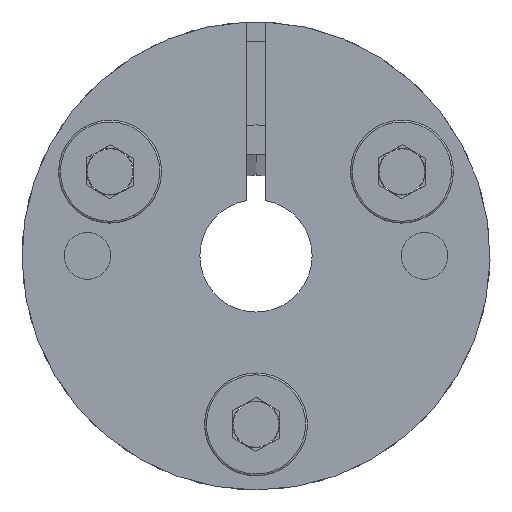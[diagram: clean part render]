
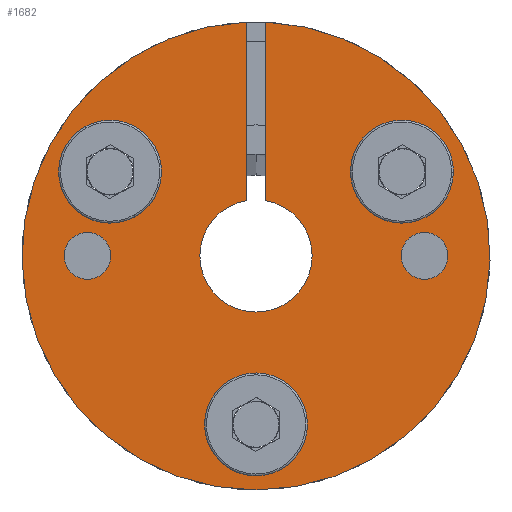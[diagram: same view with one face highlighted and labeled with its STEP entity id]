
A CAD part, left-side view. The second image highlights one B-rep face of the part: STEP entity #1682.
In plain terms, the highlighted planar face has unit normal (-1, 0, 0).
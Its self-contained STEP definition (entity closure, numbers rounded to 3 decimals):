
#3 = EDGE_CURVE ( 'NONE', #1760, #1853, #1706, .T. ) ;
#46 = DIRECTION ( 'NONE',  ( 0., 1., 0. ) ) ;
#99 = DIRECTION ( 'NONE',  ( -1., 0., 0. ) ) ;
#114 = EDGE_CURVE ( 'NONE', #3046, #1008, #115, .T. ) ;
#115 = CIRCLE ( 'NONE', #574, 1.25 ) ;
#117 = VERTEX_POINT ( 'NONE', #2579 ) ;
#186 = VERTEX_POINT ( 'NONE', #227 ) ;
#195 = CIRCLE ( 'NONE', #343, 1.7 ) ;
#205 = ORIENTED_EDGE ( 'NONE', *, *, #2664, .F. ) ;
#227 = CARTESIAN_POINT ( 'NONE',  ( -10.443, 0.5, 12.49 ) ) ;
#255 = DIRECTION ( 'NONE',  ( 1., 0., 0. ) ) ;
#276 = CARTESIAN_POINT ( 'NONE',  ( -10.443, 9., 0. ) ) ;
#299 = FACE_OUTER_BOUND ( 'NONE', #1858, .T. ) ;
#343 = AXIS2_PLACEMENT_3D ( 'NONE', #948, #2934, #1416 ) ;
#346 = CIRCLE ( 'NONE', #2862, 1.25 ) ;
#378 = EDGE_CURVE ( 'NONE', #2801, #1730, #1419, .T. ) ;
#395 = AXIS2_PLACEMENT_3D ( 'NONE', #635, #3221, #2730 ) ;
#434 = AXIS2_PLACEMENT_3D ( 'NONE', #1623, #2622, #2400 ) ;
#437 = EDGE_CURVE ( 'NONE', #3216, #186, #722, .T. ) ;
#481 = CARTESIAN_POINT ( 'NONE',  ( -10.443, 0., -9. ) ) ;
#496 = CARTESIAN_POINT ( 'NONE',  ( -10.443, -7.794, 4.5 ) ) ;
#512 = DIRECTION ( 'NONE',  ( -1., 0., 0. ) ) ;
#574 = AXIS2_PLACEMENT_3D ( 'NONE', #276, #576, #46 ) ;
#576 = DIRECTION ( 'NONE',  ( -1., 0., 0. ) ) ;
#577 = VECTOR ( 'NONE', #1804, 1000. ) ;
#605 = CARTESIAN_POINT ( 'NONE',  ( -10.443, -9., 0. ) ) ;
#635 = CARTESIAN_POINT ( 'NONE',  ( -10.443, 0., 0. ) ) ;
#641 = DIRECTION ( 'NONE',  ( 0., 1., 0. ) ) ;
#642 = DIRECTION ( 'NONE',  ( -1., 0., 0. ) ) ;
#669 = EDGE_CURVE ( 'NONE', #968, #117, #1353, .T. ) ;
#671 = VERTEX_POINT ( 'NONE', #1866 ) ;
#690 = ORIENTED_EDGE ( 'NONE', *, *, #2396, .F. ) ;
#722 = LINE ( 'NONE', #2865, #577 ) ;
#801 = CIRCLE ( 'NONE', #395, 3. ) ;
#864 = CIRCLE ( 'NONE', #2531, 1.7 ) ;
#869 = ORIENTED_EDGE ( 'NONE', *, *, #114, .F. ) ;
#913 = EDGE_LOOP ( 'NONE', ( #924, #205 ) ) ;
#924 = ORIENTED_EDGE ( 'NONE', *, *, #2727, .F. ) ;
#948 = CARTESIAN_POINT ( 'NONE',  ( -10.443, 7.794, 4.5 ) ) ;
#954 = FACE_BOUND ( 'NONE', #2875, .T. ) ;
#968 = VERTEX_POINT ( 'NONE', #2671 ) ;
#976 = DIRECTION ( 'NONE',  ( -1., 0., 0. ) ) ;
#1008 = VERTEX_POINT ( 'NONE', #2492 ) ;
#1060 = CARTESIAN_POINT ( 'NONE',  ( -10.443, -1.7, -9. ) ) ;
#1086 = DIRECTION ( 'NONE',  ( -1., 0., 0. ) ) ;
#1102 = AXIS2_PLACEMENT_3D ( 'NONE', #496, #976, #2126 ) ;
#1135 = FACE_BOUND ( 'NONE', #2833, .T. ) ;
#1164 = CIRCLE ( 'NONE', #1785, 1.25 ) ;
#1173 = CARTESIAN_POINT ( 'NONE',  ( -10.443, 7.794, 4.5 ) ) ;
#1181 = ORIENTED_EDGE ( 'NONE', *, *, #1246, .F. ) ;
#1182 = CARTESIAN_POINT ( 'NONE',  ( -10.443, 9., 0. ) ) ;
#1195 = AXIS2_PLACEMENT_3D ( 'NONE', #2919, #255, #1279 ) ;
#1199 = AXIS2_PLACEMENT_3D ( 'NONE', #3225, #1086, #3047 ) ;
#1205 = CARTESIAN_POINT ( 'NONE',  ( -10.443, 6.094, 4.5 ) ) ;
#1246 = EDGE_CURVE ( 'NONE', #3216, #1708, #801, .T. ) ;
#1253 = DIRECTION ( 'NONE',  ( 0., 1., 0. ) ) ;
#1279 = DIRECTION ( 'NONE',  ( 0., 1., 0. ) ) ;
#1306 = CARTESIAN_POINT ( 'NONE',  ( -10.443, 9., 1.25 ) ) ;
#1334 = ORIENTED_EDGE ( 'NONE', *, *, #2407, .F. ) ;
#1342 = CARTESIAN_POINT ( 'NONE',  ( -10.443, 0., -9. ) ) ;
#1353 = CIRCLE ( 'NONE', #2706, 1.7 ) ;
#1367 = CARTESIAN_POINT ( 'NONE',  ( -10.443, -7.794, 4.5 ) ) ;
#1416 = DIRECTION ( 'NONE',  ( 0., 1., 0. ) ) ;
#1419 = CIRCLE ( 'NONE', #1199, 1.25 ) ;
#1430 = EDGE_CURVE ( 'NONE', #1730, #2801, #346, .T. ) ;
#1484 = FACE_BOUND ( 'NONE', #2096, .T. ) ;
#1500 = VERTEX_POINT ( 'NONE', #1993 ) ;
#1583 = DIRECTION ( 'NONE',  ( -1., 0., 0. ) ) ;
#1615 = ORIENTED_EDGE ( 'NONE', *, *, #1430, .F. ) ;
#1623 = CARTESIAN_POINT ( 'NONE',  ( -10.443, 0., 0. ) ) ;
#1643 = DIRECTION ( 'NONE',  ( 0., 1., 0. ) ) ;
#1660 = FACE_BOUND ( 'NONE', #1700, .T. ) ;
#1681 = DIRECTION ( 'NONE',  ( 0., 0., -1. ) ) ;
#1682 = ADVANCED_FACE ( 'NONE', ( #299, #954, #1135, #1660, #2994, #1484 ), #1983, .F. ) ;
#1700 = EDGE_LOOP ( 'NONE', ( #869, #2639 ) ) ;
#1706 = CIRCLE ( 'NONE', #2313, 1.7 ) ;
#1708 = VERTEX_POINT ( 'NONE', #2475 ) ;
#1726 = ORIENTED_EDGE ( 'NONE', *, *, #669, .F. ) ;
#1730 = VERTEX_POINT ( 'NONE', #2705 ) ;
#1749 = EDGE_CURVE ( 'NONE', #1008, #3046, #1164, .T. ) ;
#1760 = VERTEX_POINT ( 'NONE', #2468 ) ;
#1780 = DIRECTION ( 'NONE',  ( 0., 1., 0. ) ) ;
#1785 = AXIS2_PLACEMENT_3D ( 'NONE', #1182, #642, #641 ) ;
#1791 = EDGE_CURVE ( 'NONE', #117, #968, #2447, .T. ) ;
#1804 = DIRECTION ( 'NONE',  ( 0., 0., 1. ) ) ;
#1853 = VERTEX_POINT ( 'NONE', #1060 ) ;
#1858 = EDGE_LOOP ( 'NONE', ( #2493, #1181, #2660, #690 ) ) ;
#1866 = CARTESIAN_POINT ( 'NONE',  ( -10.443, -0.5, 12.49 ) ) ;
#1959 = AXIS2_PLACEMENT_3D ( 'NONE', #1342, #99, #3125 ) ;
#1983 = PLANE ( 'NONE',  #1195 ) ;
#1993 = CARTESIAN_POINT ( 'NONE',  ( -10.443, 9.494, 4.5 ) ) ;
#2089 = ORIENTED_EDGE ( 'NONE', *, *, #3, .F. ) ;
#2096 = EDGE_LOOP ( 'NONE', ( #2089, #1334 ) ) ;
#2126 = DIRECTION ( 'NONE',  ( 0., 1., 0. ) ) ;
#2152 = CARTESIAN_POINT ( 'NONE',  ( -10.443, -0.5, 12.5 ) ) ;
#2192 = DIRECTION ( 'NONE',  ( -1., 0., 0. ) ) ;
#2209 = LINE ( 'NONE', #2152, #2394 ) ;
#2274 = ORIENTED_EDGE ( 'NONE', *, *, #378, .F. ) ;
#2313 = AXIS2_PLACEMENT_3D ( 'NONE', #481, #1583, #1253 ) ;
#2346 = CIRCLE ( 'NONE', #1959, 1.7 ) ;
#2394 = VECTOR ( 'NONE', #1681, 1000. ) ;
#2396 = EDGE_CURVE ( 'NONE', #671, #186, #2953, .T. ) ;
#2400 = DIRECTION ( 'NONE',  ( 0., 1., 0. ) ) ;
#2407 = EDGE_CURVE ( 'NONE', #1853, #1760, #2346, .T. ) ;
#2447 = CIRCLE ( 'NONE', #1102, 1.7 ) ;
#2468 = CARTESIAN_POINT ( 'NONE',  ( -10.443, 1.7, -9. ) ) ;
#2475 = CARTESIAN_POINT ( 'NONE',  ( -10.443, -0.5, 2.958 ) ) ;
#2492 = CARTESIAN_POINT ( 'NONE',  ( -10.443, 9., -1.25 ) ) ;
#2493 = ORIENTED_EDGE ( 'NONE', *, *, #3157, .T. ) ;
#2531 = AXIS2_PLACEMENT_3D ( 'NONE', #1173, #2954, #2750 ) ;
#2579 = CARTESIAN_POINT ( 'NONE',  ( -10.443, -6.094, 4.5 ) ) ;
#2622 = DIRECTION ( 'NONE',  ( 1., 0., 0. ) ) ;
#2639 = ORIENTED_EDGE ( 'NONE', *, *, #1749, .F. ) ;
#2660 = ORIENTED_EDGE ( 'NONE', *, *, #437, .T. ) ;
#2664 = EDGE_CURVE ( 'NONE', #2734, #1500, #864, .T. ) ;
#2671 = CARTESIAN_POINT ( 'NONE',  ( -10.443, -9.494, 4.5 ) ) ;
#2705 = CARTESIAN_POINT ( 'NONE',  ( -10.443, -9., -1.25 ) ) ;
#2706 = AXIS2_PLACEMENT_3D ( 'NONE', #1367, #2192, #1643 ) ;
#2727 = EDGE_CURVE ( 'NONE', #1500, #2734, #195, .T. ) ;
#2730 = DIRECTION ( 'NONE',  ( 0., 1., 0. ) ) ;
#2734 = VERTEX_POINT ( 'NONE', #1205 ) ;
#2750 = DIRECTION ( 'NONE',  ( 0., 1., 0. ) ) ;
#2791 = CARTESIAN_POINT ( 'NONE',  ( -10.443, 0.5, 2.958 ) ) ;
#2801 = VERTEX_POINT ( 'NONE', #2922 ) ;
#2833 = EDGE_LOOP ( 'NONE', ( #2274, #1615 ) ) ;
#2862 = AXIS2_PLACEMENT_3D ( 'NONE', #605, #512, #1780 ) ;
#2865 = CARTESIAN_POINT ( 'NONE',  ( -10.443, 0.5, 12.5 ) ) ;
#2875 = EDGE_LOOP ( 'NONE', ( #3053, #1726 ) ) ;
#2919 = CARTESIAN_POINT ( 'NONE',  ( -10.443, 12.819, -12.5 ) ) ;
#2922 = CARTESIAN_POINT ( 'NONE',  ( -10.443, -9., 1.25 ) ) ;
#2934 = DIRECTION ( 'NONE',  ( -1., 0., 0. ) ) ;
#2953 = CIRCLE ( 'NONE', #434, 12.5 ) ;
#2954 = DIRECTION ( 'NONE',  ( -1., 0., 0. ) ) ;
#2994 = FACE_BOUND ( 'NONE', #913, .T. ) ;
#3046 = VERTEX_POINT ( 'NONE', #1306 ) ;
#3047 = DIRECTION ( 'NONE',  ( 0., 1., 0. ) ) ;
#3053 = ORIENTED_EDGE ( 'NONE', *, *, #1791, .F. ) ;
#3125 = DIRECTION ( 'NONE',  ( 0., 1., 0. ) ) ;
#3157 = EDGE_CURVE ( 'NONE', #671, #1708, #2209, .T. ) ;
#3216 = VERTEX_POINT ( 'NONE', #2791 ) ;
#3221 = DIRECTION ( 'NONE',  ( -1., 0., 0. ) ) ;
#3225 = CARTESIAN_POINT ( 'NONE',  ( -10.443, -9., 0. ) ) ;
